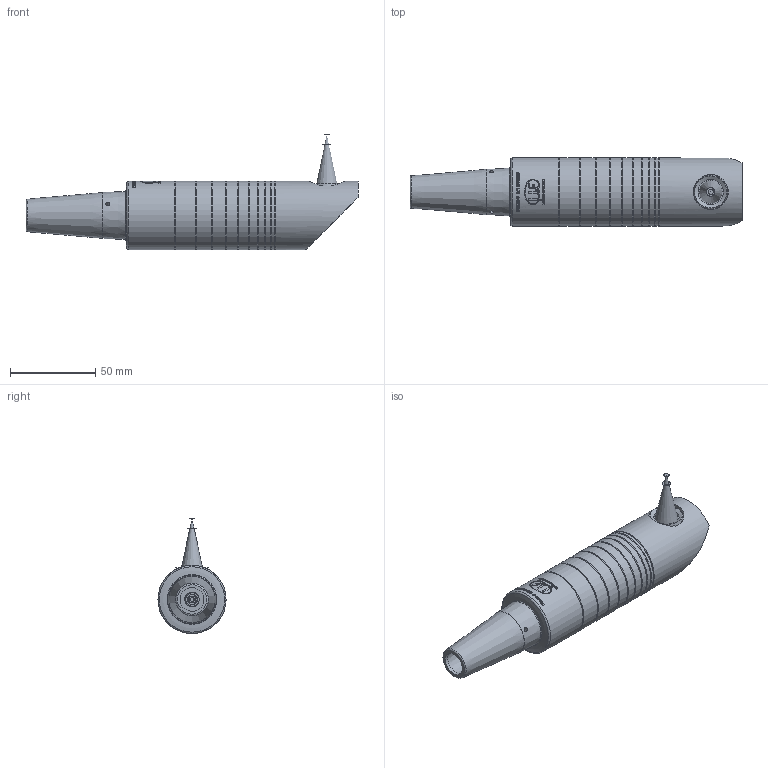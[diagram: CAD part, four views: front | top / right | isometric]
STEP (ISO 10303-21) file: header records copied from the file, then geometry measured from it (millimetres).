
FILE_DESCRIPTION (( 'STEP AP203' ), '1' );
FILE_NAME ('IFS2405_90-6-stepMB.STEP', '2020-12-16T11:36:20', ( '' ), ( '' ), 'SwSTEP 2.0', 'SolidWorks 2020', '' );
FILE_SCHEMA (( 'CONFIG_CONTROL_DESIGN' ));
Length unit declared in the file: millimetre
Products named in the file (3): IFS2405_90-6-stepMB; Messbereich IFS2405-90-6_=00=; IFS2405-90-6 Sensor_90ø Grundkoerper
Assembly tree (2 placements, depth 2):
  IFS2405_90-6-stepMB
    IFS2405-90-6 Sensor_90ø Grundkoerper
    Messbereich IFS2405-90-6_=00=
Bounding box: 194.92 x 40 x 67.55 mm (x, y, z)
Volume: 175641.4 mm3; surface area: 28349.4 mm2
Topology: 3 solids, 3 shells, 130 faces, 625 edges, 563 vertices
Faces by surface type: cylinder 84, plane 22, torus 14, cone 10
Full cylindrical faces by diameter (mm): 2.5 x4, 3 x1, 4 x1, 5 x1, 6 x1, 8 x1, 8.5 x1, 14 x1, 14.8 x1, 18 x1, 20 x1, 20.5 x1, 21 x1, 23 x1, 24 x1, 24.1 x1, 40 x11
Entity records: 11174 total; most frequent: CARTESIAN_POINT 6416, ORIENTED_EDGE 1082, DIRECTION 641, EDGE_CURVE 541, VERTEX_POINT 540, B_SPLINE_CURVE_WITH_KNOTS 310, AXIS2_PLACEMENT_3D 279, EDGE_LOOP 249
